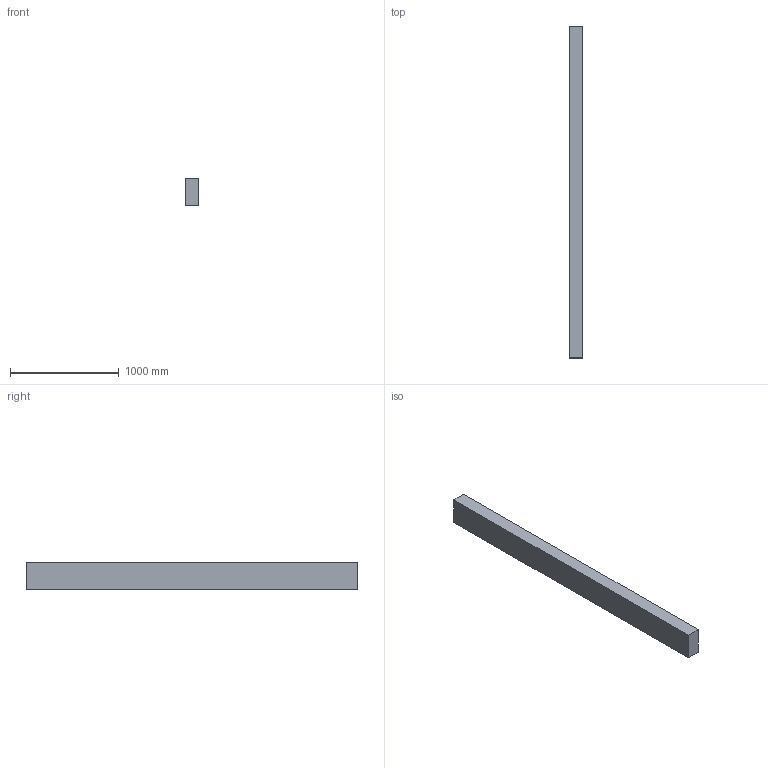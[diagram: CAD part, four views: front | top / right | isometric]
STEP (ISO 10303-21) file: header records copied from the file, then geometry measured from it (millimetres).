
FILE_DESCRIPTION(/* description */ (''),/* implementation_level */ '2;1');
FILE_NAME(/* name */ '5x10x120',/* time_stamp */ '2024-09-20T11:46:47-05:00',/* author */ (''),/* organization */ (''),/* preprocessor_version */ 'ST-DEVELOPER v19.2',/* originating_system */ 'Rhino 8.5',/* authorisation */ '');
FILE_SCHEMA (('CONFIG_CONTROL_DESIGN'));
Length unit declared in the file: inch
Products named in the file (1): Document
Bounding box: 127 x 3048 x 254 mm (x, y, z)
Volume: 98322384 mm3; surface area: 2387092 mm2
Topology: 1 solids, 1 shells, 6 faces, 12 edges, 8 vertices
Faces by surface type: plane 6
Entity records: 226 total; most frequent: CARTESIAN_POINT 40, ORIENTED_EDGE 24, EDGE_CURVE 12, B_SPLINE_CURVE_WITH_KNOTS 12, DIRECTION 10, VERTEX_POINT 8, AXIS2_PLACEMENT_3D 8, ORGANIZATION 7
